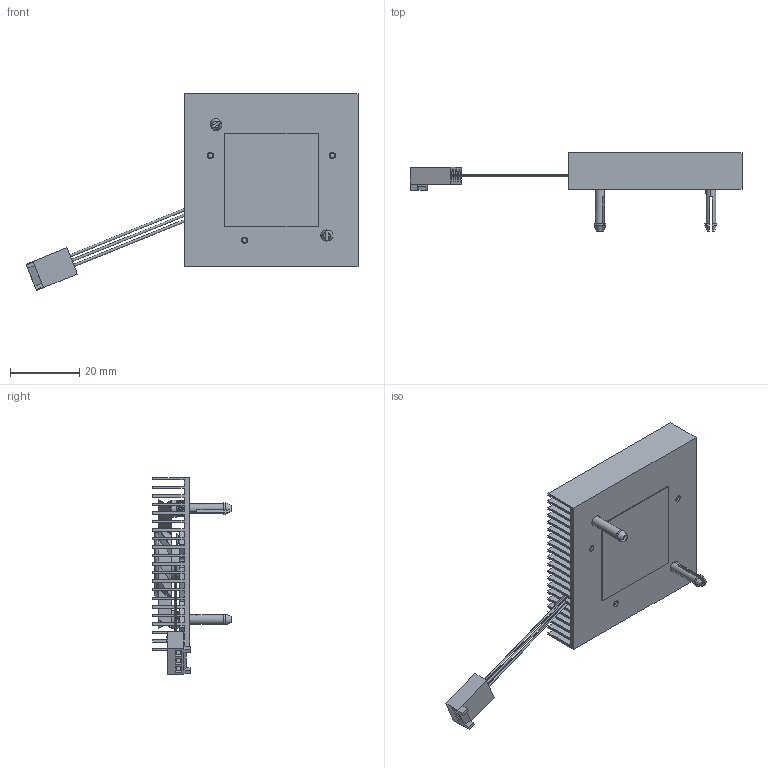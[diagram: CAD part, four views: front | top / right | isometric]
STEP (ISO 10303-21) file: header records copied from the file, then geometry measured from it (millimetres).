
FILE_DESCRIPTION (( 'STEP AP214' ), '1' );
FILE_NAME ('SZ12S+B.STEP', '2023-02-15T01:16:59', ( '' ), ( '' ), 'SwSTEP 2.0', 'SolidWorks 2020', '' );
FILE_SCHEMA (( 'AUTOMOTIVE_DESIGN' ));
Length unit declared in the file: inch
Products named in the file (1): SZ12S+B
Bounding box: 95.86 x 22.61 x 56.87 mm (x, y, z)
Volume: 9377.1 mm3; surface area: 20117.8 mm2
Topology: 9 solids, 9 shells, 955 faces, 2576 edges, 1695 vertices
Faces by surface type: plane 563, bspline 210, cylinder 134, cone 46, torus 2
Entity records: 56268 total; most frequent: CARTESIAN_POINT 21457, ORIENTED_EDGE 5140, DIRECTION 3742, EDGE_CURVE 2570, VERTEX_POINT 1695, VECTOR 1578, LINE 1578, AXIS2_PLACEMENT_3D 1082
